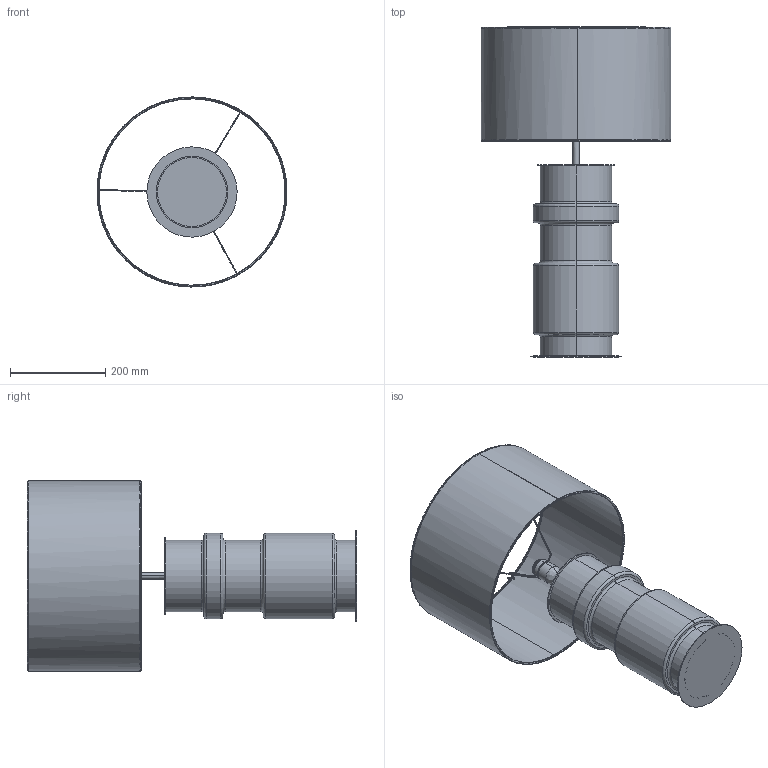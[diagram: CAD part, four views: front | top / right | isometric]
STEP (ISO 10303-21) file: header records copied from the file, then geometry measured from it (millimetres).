
FILE_DESCRIPTION (( 'STEP AP214' ), '1' );
FILE_NAME ('ZURC_NAC153.STEP', '2026-06-18T11:29:37', ( '' ), ( '' ), 'SwSTEP 2.0', 'SolidWorks 2023', '' );
FILE_SCHEMA (( 'AUTOMOTIVE_DESIGN' ));
Length unit declared in the file: millimetre
Products named in the file (5): Base 16; Shade; ZURC_NAC153; Base 19; ZURC_153
Assembly tree (4 placements, depth 2):
  ZURC_NAC153
    ZURC_153
    Base 16
    Shade
    Base 19
Bounding box: 399.68 x 694 x 399.91 mm (x, y, z)
Volume: 2035915.6 mm3; surface area: 1163902.2 mm2
Topology: 3 solids, 25 shells, 203 faces, 628 edges, 440 vertices
Faces by surface type: bspline 161, torus 16, cylinder 16, plane 10
Entity records: 14529 total; most frequent: CARTESIAN_POINT 10831, ORIENTED_EDGE 1050, EDGE_CURVE 625, VERTEX_POINT 442, B_SPLINE_CURVE_WITH_KNOTS 250, DIRECTION 244, EDGE_LOOP 214, FACE_OUTER_BOUND 203
